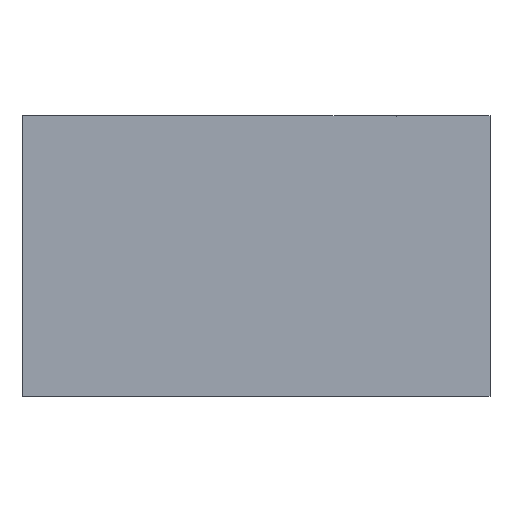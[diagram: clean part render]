
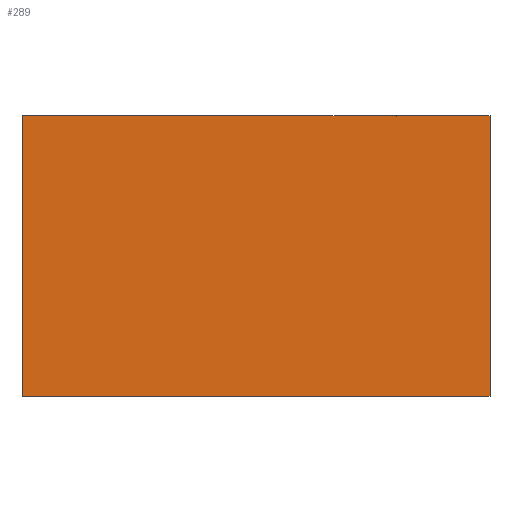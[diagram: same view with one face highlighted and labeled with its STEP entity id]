
A CAD part, front view. The second image highlights one B-rep face of the part: STEP entity #289.
In plain terms, the highlighted planar face has unit normal (0, -1, 0).
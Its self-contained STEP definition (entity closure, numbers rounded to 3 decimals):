
#23=FACE_OUTER_BOUND('',#41,.T.);
#41=EDGE_LOOP('',(#215,#216,#217,#218,#219,#220));
#56=LINE('',#426,#94);
#61=LINE('',#438,#99);
#72=LINE('',#460,#110);
#73=LINE('',#462,#111);
#74=LINE('',#463,#112);
#75=LINE('',#464,#113);
#94=VECTOR('',#350,10.);
#99=VECTOR('',#357,10.);
#110=VECTOR('',#378,10.);
#111=VECTOR('',#379,10.);
#112=VECTOR('',#380,10.);
#113=VECTOR('',#381,10.);
#128=VERTEX_POINT('',#416);
#130=VERTEX_POINT('',#422);
#135=VERTEX_POINT('',#435);
#136=VERTEX_POINT('',#437);
#142=VERTEX_POINT('',#459);
#143=VERTEX_POINT('',#461);
#154=EDGE_CURVE('',#130,#128,#56,.T.);
#159=EDGE_CURVE('',#135,#136,#61,.T.);
#170=EDGE_CURVE('',#142,#135,#72,.T.);
#171=EDGE_CURVE('',#143,#142,#73,.T.);
#172=EDGE_CURVE('',#143,#128,#74,.T.);
#173=EDGE_CURVE('',#136,#130,#75,.T.);
#215=ORIENTED_EDGE('',*,*,#159,.F.);
#216=ORIENTED_EDGE('',*,*,#170,.F.);
#217=ORIENTED_EDGE('',*,*,#171,.F.);
#218=ORIENTED_EDGE('',*,*,#172,.T.);
#219=ORIENTED_EDGE('',*,*,#154,.F.);
#220=ORIENTED_EDGE('',*,*,#173,.F.);
#271=PLANE('',#327);
#289=ADVANCED_FACE('',(#23),#271,.T.);
#327=AXIS2_PLACEMENT_3D('',#458,#376,#377);
#350=DIRECTION('',(1.,0.,0.));
#357=DIRECTION('',(-1.,0.,0.));
#376=DIRECTION('center_axis',(0.,-1.,0.));
#377=DIRECTION('ref_axis',(0.,0.,-1.));
#378=DIRECTION('',(0.,0.,-1.));
#379=DIRECTION('',(1.,0.,0.));
#380=DIRECTION('',(-1.,0.,0.));
#381=DIRECTION('',(0.,0.,1.));
#416=CARTESIAN_POINT('',(-20.,-30.,30.));
#422=CARTESIAN_POINT('',(-80.,-30.,30.));
#426=CARTESIAN_POINT('',(-80.,-30.,30.));
#435=CARTESIAN_POINT('',(20.,-30.,-30.));
#437=CARTESIAN_POINT('',(-80.,-30.,-30.));
#438=CARTESIAN_POINT('',(0.,-30.,-30.));
#458=CARTESIAN_POINT('Origin',(0.,-30.,30.));
#459=CARTESIAN_POINT('',(20.,-30.,30.));
#460=CARTESIAN_POINT('',(20.,-30.,30.));
#461=CARTESIAN_POINT('',(0.,-30.,30.));
#462=CARTESIAN_POINT('',(0.,-30.,30.));
#463=CARTESIAN_POINT('',(0.,-30.,30.));
#464=CARTESIAN_POINT('',(-80.,-30.,30.));
